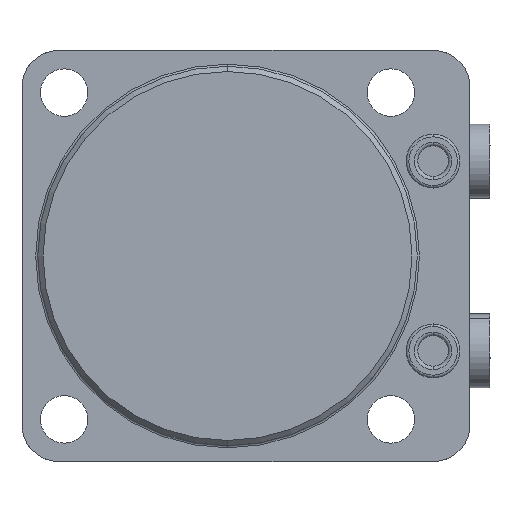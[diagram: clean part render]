
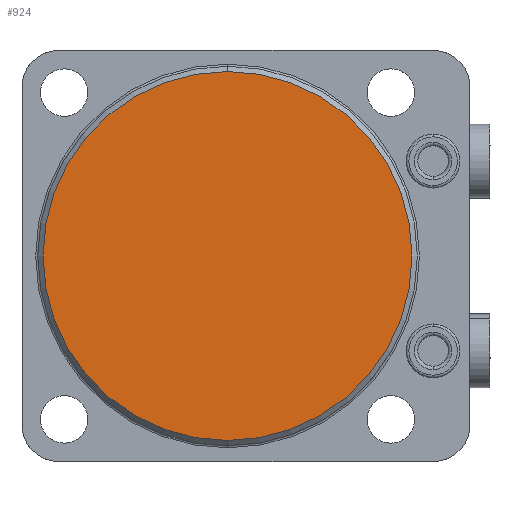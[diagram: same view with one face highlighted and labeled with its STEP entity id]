
A CAD part, front view. The second image highlights one B-rep face of the part: STEP entity #924.
In plain terms, the highlighted planar face has unit normal (0, -1, 0).
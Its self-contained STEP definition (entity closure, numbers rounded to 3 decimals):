
#687=PLANE('',#3518);
#924=ADVANCED_FACE('',(#1118),#687,.F.);
#1118=FACE_OUTER_BOUND('',#1297,.T.);
#1297=EDGE_LOOP('',(#2077,#2078));
#2077=ORIENTED_EDGE('',*,*,#2961,.T.);
#2078=ORIENTED_EDGE('',*,*,#2902,.T.);
#2609=VERTEX_POINT('',#5170);
#2610=VERTEX_POINT('',#5171);
#2902=EDGE_CURVE('',#2609,#2610,#3188,.T.);
#2961=EDGE_CURVE('',#2610,#2609,#3209,.T.);
#3188=CIRCLE('',#3485,35.);
#3209=CIRCLE('',#3517,35.);
#3485=AXIS2_PLACEMENT_3D('',#5169,#4162,#4163);
#3517=AXIS2_PLACEMENT_3D('',#5365,#4244,#4245);
#3518=AXIS2_PLACEMENT_3D('',#5366,#4246,#4247);
#4162=DIRECTION('',(0.,-1.,0.));
#4163=DIRECTION('',(0.,0.,1.));
#4244=DIRECTION('',(0.,-1.,0.));
#4245=DIRECTION('',(0.,0.,1.));
#4246=DIRECTION('',(0.,1.,0.));
#4247=DIRECTION('',(0.,0.,-1.));
#5169=CARTESIAN_POINT('',(0.,-76.,0.));
#5170=CARTESIAN_POINT('',(0.,-76.,-35.));
#5171=CARTESIAN_POINT('',(0.,-76.,35.));
#5365=CARTESIAN_POINT('',(0.,-76.,0.));
#5366=CARTESIAN_POINT('',(0.,-76.,0.));
